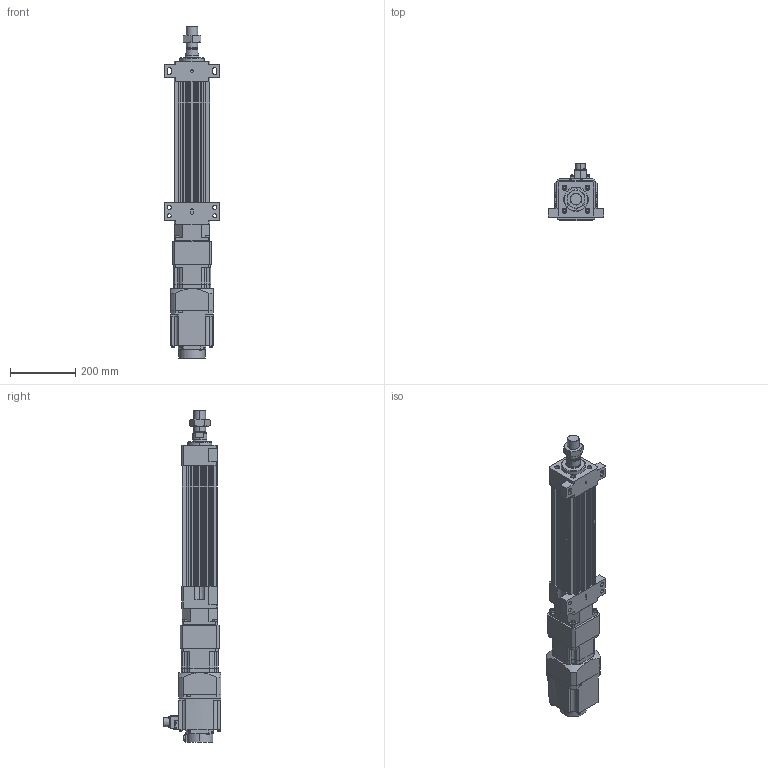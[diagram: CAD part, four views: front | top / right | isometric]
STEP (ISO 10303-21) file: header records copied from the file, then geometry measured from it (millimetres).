
FILE_DESCRIPTION (( 'STEP AP203' ), '1' );
FILE_NAME ('HES110NS(HS)-S200-W015G00-M-FFB.STEP', '2023-01-27T11:42:59', ( 'tms' ), ( '' ), 'SwSTEP 2.0', 'SolidWorks 2013', '' );
FILE_SCHEMA (( 'CONFIG_CONTROL_DESIGN' ));
Length unit declared in the file: millimetre
Products named in the file (8): AB1151; HG-SR152; HES110NS(HS)-S200-W015G00-M-FFB; P0401400706; HES110 ROD M ST200; AB115-003[HG-SR152]; M36X1.5P; HES110-S200-G120-FFB
Assembly tree (7 placements, depth 3):
  HES110NS(HS)-S200-W015G00-M-FFB
    HES110-S200-G120-FFB
    HES110 ROD M ST200
    M36X1.5P
    AB115-003[HG-SR152]
      AB1151
      P0401400706
    HG-SR152
Bounding box: 170 x 177.49 x 1021.5 mm (x, y, z)
Volume: 6678220.6 mm3; surface area: 900737.5 mm2
Topology: 4 solids, 15 shells, 1194 faces, 3023 edges, 1968 vertices
Faces by surface type: plane 571, cylinder 531, cone 80, bspline 8, torus 4
Entity records: 37745 total; most frequent: CARTESIAN_POINT 7162, DIRECTION 6520, ORIENTED_EDGE 5998, EDGE_CURVE 3009, AXIS2_PLACEMENT_3D 2386, VERTEX_POINT 1968, LINE 1748, VECTOR 1748
